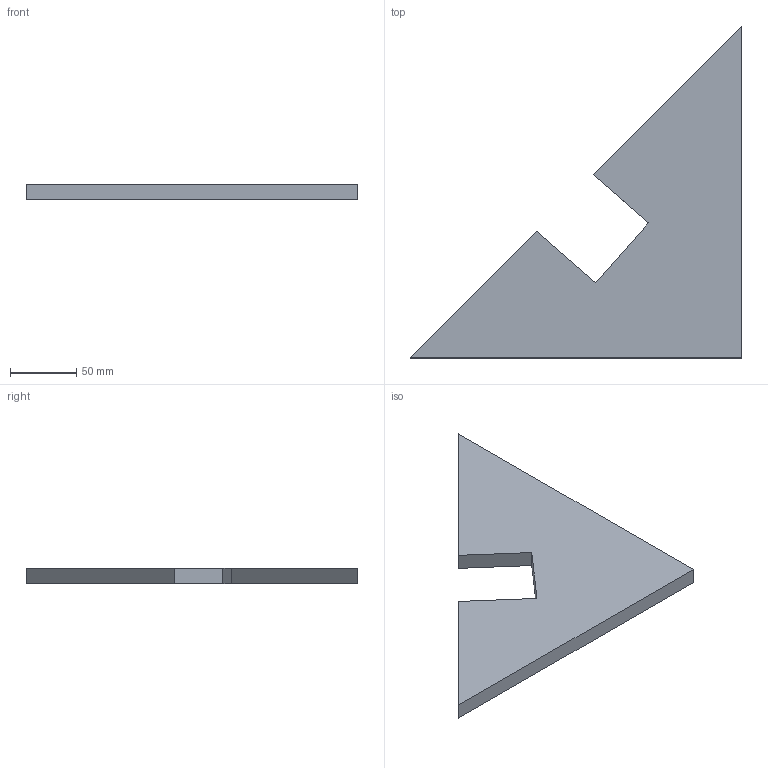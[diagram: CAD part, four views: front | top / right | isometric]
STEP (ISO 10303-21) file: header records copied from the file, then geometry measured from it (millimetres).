
FILE_DESCRIPTION(('Open CASCADE Model'),'2;1');
FILE_NAME('Open CASCADE Shape Model','2026-10-19T10:09:20',('Author'),( 'Open CASCADE'),'Open CASCADE STEP processor 8.0','Open CASCADE 8.0' ,'Unknown');
FILE_SCHEMA(('AUTOMOTIVE_DESIGN { 1 0 10303 214 1 1 1 1 }'));
Length unit declared in the file: millimetre
Products named in the file (1): U02_CARTELA_KNE-1_1_P05 45
Bounding box: 250 x 250 x 12 mm (x, y, z)
Volume: 333846.1 mm3; surface area: 67253.9 mm2
Topology: 1 solids, 1 shells, 9 faces, 21 edges, 14 vertices
Faces by surface type: plane 9
Entity records: 538 total; most frequent: CARTESIAN_POINT 87, DIRECTION 83, LINE 63, VECTOR 63, ORIENTED_EDGE 42, PCURVE 42, DEFINITIONAL_REPRESENTATION 42, EDGE_CURVE 21
